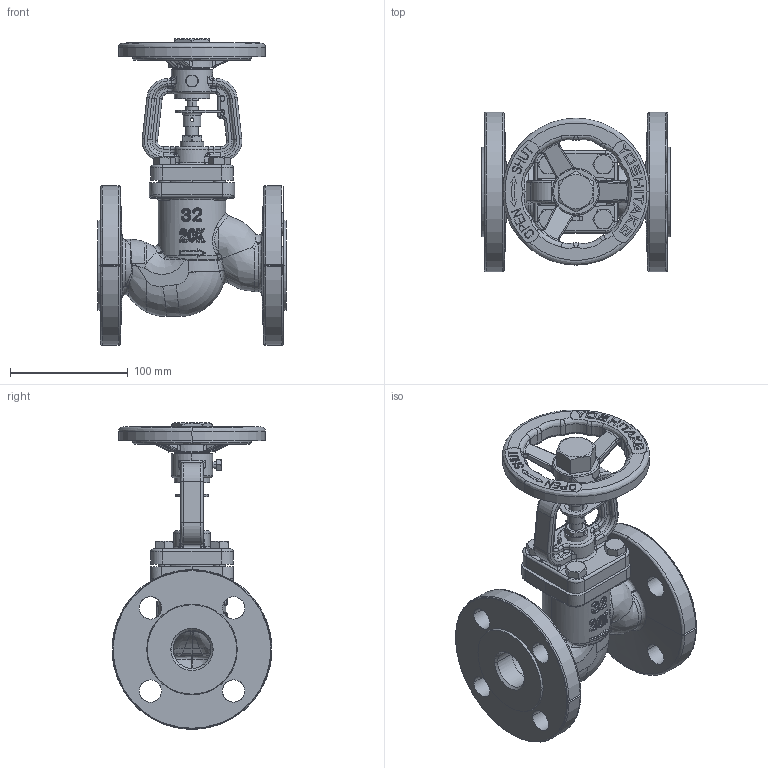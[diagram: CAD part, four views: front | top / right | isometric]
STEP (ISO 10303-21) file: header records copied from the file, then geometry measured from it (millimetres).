
FILE_DESCRIPTION( (''), '2;1');
FILE_NAME ('PC1027.9568.BSV-20F 32A_25993.stp','2025-07-28T09:37:12',(''),(''),'spGate 19.8.4 (****-****-****-****)','','');
FILE_SCHEMA (('AUTOMOTIVE_DESIGN'));
Length unit declared in the file: millimetre
Products named in the file (12): Assembly; ボンネット25-32A; スリーブワッシャー15-32A; スリーブ25-32A; グランドナット25-32A; 弁棒25-32A; ストッパー25-32A; ハンドル15-32A; ハンドルナット15-32A; CP_''_JIS B 1180 呼び径六角ボルト''_17166; CP_''_JIS B 1180 呼び径六角ボ''_(1)_17166; 本体20K 32A
Assembly tree (15 placements, depth 2):
  Assembly
    ボンネット25-32A
    スリーブワッシャー15-32A  x2
    スリーブ25-32A
    グランドナット25-32A
    弁棒25-32A
    ストッパー25-32A
    ハンドル15-32A
    ハンドルナット15-32A
    CP_''_JIS B 1180 呼び径六角ボルト''_17166  x4
    CP_''_JIS B 1180 呼び径六角ボ''_(1)_17166
    本体20K 32A
Bounding box: 160 x 135.99 x 261 mm (x, y, z)
Volume: 895680.5 mm3; surface area: 226812.3 mm2
Topology: 15 solids, 15 shells, 1789 faces, 4396 edges, 2632 vertices
Faces by surface type: bspline 907, cylinder 463, plane 406, sphere 13
Entity records: 123107 total; most frequent: CARTESIAN_POINT 57766, ORIENTED_EDGE 8304, COLOUR_RGB 5862, PRESENTATION_STYLE_ASSIGNMENT 5862, STYLED_ITEM 5862, DIRECTION 4702, EDGE_CURVE 4152, DRAUGHTING_PRE_DEFINED_CURVE_FONT 4152
